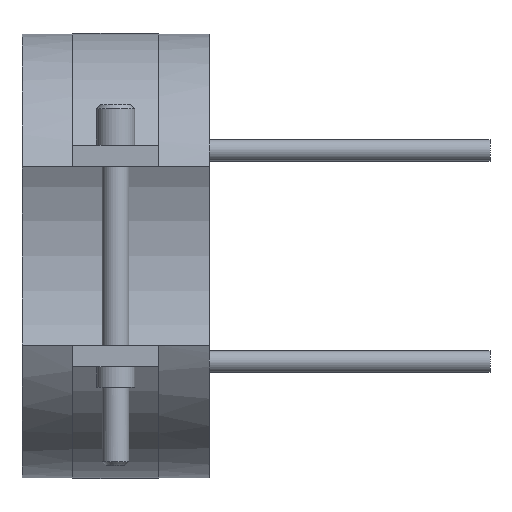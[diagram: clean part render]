
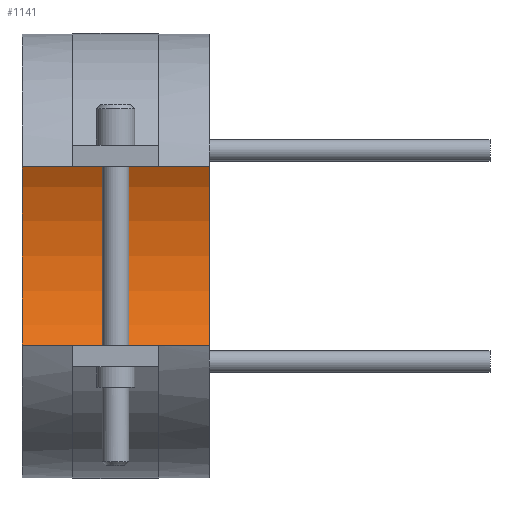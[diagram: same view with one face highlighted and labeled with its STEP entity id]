
A CAD part, front view. The second image highlights one B-rep face of the part: STEP entity #1141.
In plain terms, the highlighted cylindrical face has radius 37.5 mm (diameter 75 mm), a partial arc.
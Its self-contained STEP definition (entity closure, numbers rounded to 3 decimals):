
#822=CARTESIAN_POINT('Vertex',(-17.5,0.,-37.5)) ;
#829=CARTESIAN_POINT('Vertex',(17.5,0.,-37.5)) ;
#832=CARTESIAN_POINT('Line Origine',(17.5,0.,-37.5)) ;
#850=CARTESIAN_POINT('Axis2P3D Location',(-17.5,0.,0.)) ;
#854=CARTESIAN_POINT('Vertex',(-17.5,0.,37.5)) ;
#911=CARTESIAN_POINT('Vertex',(17.5,0.,37.5)) ;
#921=CARTESIAN_POINT('Line Origine',(17.5,0.,37.5)) ;
#1012=CARTESIAN_POINT('Axis2P3D Location',(17.5,0.,0.)) ;
#1130=CARTESIAN_POINT('Axis2P3D Location',(17.5,0.,0.)) ;
#833=DIRECTION('Vector Direction',(1.,0.,0.)) ;
#851=DIRECTION('Axis2P3D Direction',(1.,0.,0.)) ;
#922=DIRECTION('Vector Direction',(1.,0.,0.)) ;
#1013=DIRECTION('Axis2P3D Direction',(1.,0.,0.)) ;
#1131=DIRECTION('Axis2P3D Direction',(1.,0.,-0.)) ;
#1132=DIRECTION('Axis2P3D XDirection',(0.,0.,-1.)) ;
#852=AXIS2_PLACEMENT_3D('Circle Axis2P3D',#850,#851,$) ;
#1014=AXIS2_PLACEMENT_3D('Circle Axis2P3D',#1012,#1013,$) ;
#1133=AXIS2_PLACEMENT_3D('Cylinder Axis2P3D',#1130,#1131,#1132) ;
#1136=ORIENTED_EDGE('',*,*,#1016,.T.) ;
#1137=ORIENTED_EDGE('',*,*,#925,.T.) ;
#1138=ORIENTED_EDGE('',*,*,#856,.F.) ;
#1139=ORIENTED_EDGE('',*,*,#836,.T.) ;
#834=VECTOR('Line Direction',#833,1.) ;
#923=VECTOR('Line Direction',#922,1.) ;
#1141=ADVANCED_FACE('14075035',(#1140),#1134,.F.) ;
#853=CIRCLE('generated circle',#852,37.5) ;
#1015=CIRCLE('generated circle',#1014,37.5) ;
#1134=CYLINDRICAL_SURFACE('generated cylinder',#1133,37.5) ;
#836=EDGE_CURVE('',#823,#830,#835,.T.) ;
#856=EDGE_CURVE('',#823,#855,#853,.T.) ;
#925=EDGE_CURVE('',#912,#855,#924,.F.) ;
#1016=EDGE_CURVE('',#830,#912,#1015,.T.) ;
#1135=EDGE_LOOP('',(#1136,#1137,#1138,#1139)) ;
#1140=FACE_OUTER_BOUND('',#1135,.T.) ;
#835=LINE('Line',#832,#834) ;
#924=LINE('Line',#921,#923) ;
#823=VERTEX_POINT('',#822) ;
#830=VERTEX_POINT('',#829) ;
#855=VERTEX_POINT('',#854) ;
#912=VERTEX_POINT('',#911) ;
